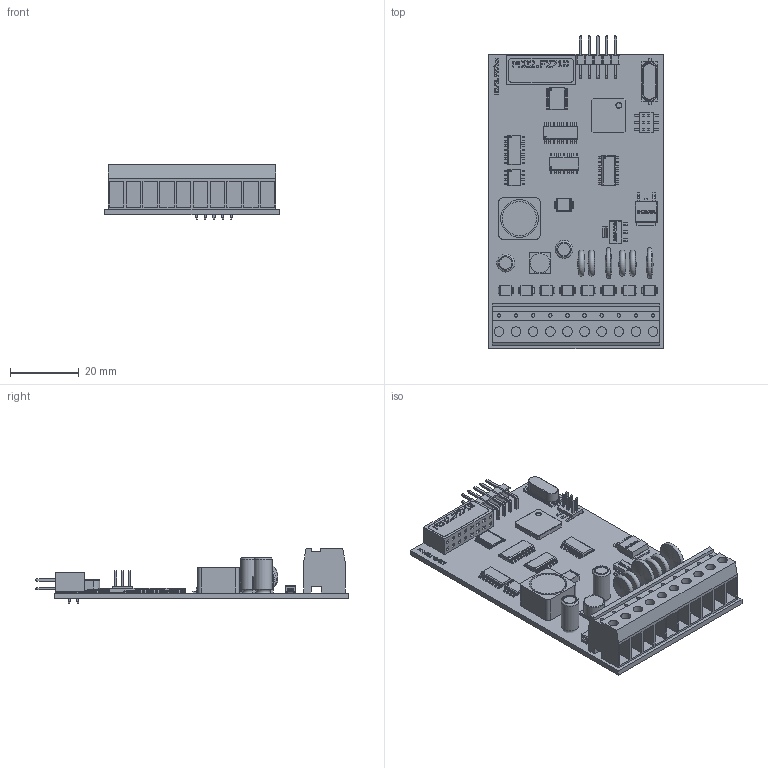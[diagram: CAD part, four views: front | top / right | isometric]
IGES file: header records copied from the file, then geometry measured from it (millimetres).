
Global section: file name: SBC_IGS_PLC_PCD2F2710_2021-08-08.igs; native system: CAD Exchanger; preprocessor: CAD Exchanger 3.9.1 (cadexchanger.com); date: 20210808.200340; units: millimetre
Bounding box: 51 x 91.5 x 16.01 mm (x, y, z)
Volume: 16046.3 mm3; surface area: 21299.7 mm2
Topology: 153 solids, 153 shells, 3413 faces, 8895 edges, 5848 vertices
Faces by surface type: plane 2218, cylinder 556, extrusion 315, bspline 274, sphere 24, torus 15, revolution 8, cone 3
Full cylindrical faces by diameter (mm): 0.4 x6, 1 x10, 1.5 x1, 2.8 x10, 3.6 x4, 5.2 x4, 6 x1, 10 x1, 11 x1
